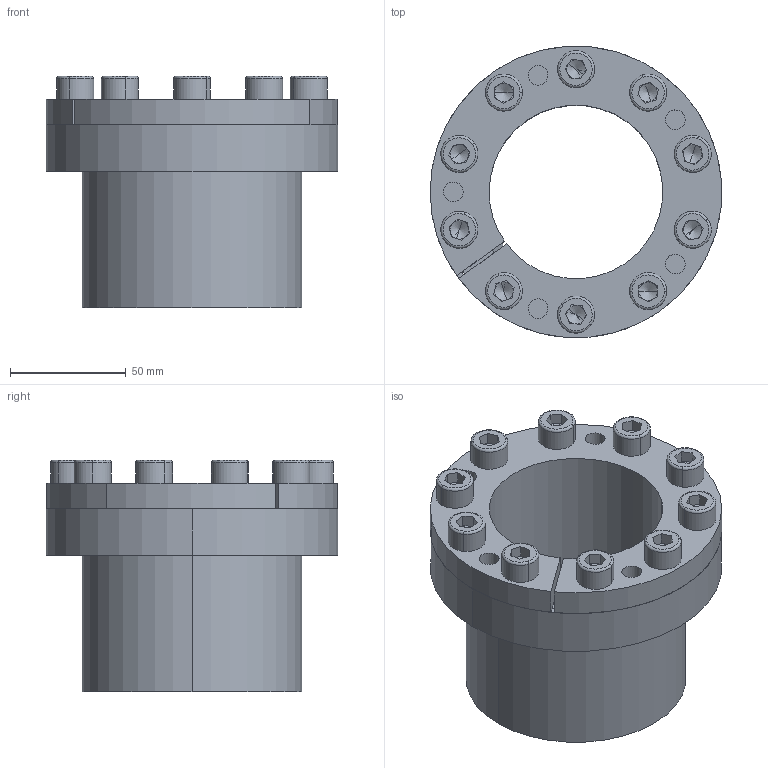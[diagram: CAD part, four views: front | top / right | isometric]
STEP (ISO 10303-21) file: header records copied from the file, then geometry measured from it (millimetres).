
FILE_DESCRIPTION (( 'STEP AP214' ), '1' );
FILE_NAME ('CONEX-B-75x95.step', '2013-04-04T12:42:23', ( 'Pc' ), ( '' ), 'SwSTEP 2.0', 'SolidWorks 2013', '' );
FILE_SCHEMA (( 'AUTOMOTIVE_DESIGN' ));
Length unit declared in the file: millimetre
Products named in the file (1): CONEX-B-75x95
Bounding box: 126 x 126 x 100 mm (x, y, z)
Volume: 379578.4 mm3; surface area: 153992.1 mm2
Topology: 13 solids, 13 shells, 360 faces, 828 edges, 494 vertices
Faces by surface type: plane 162, cylinder 106, torus 46, cone 46
Entity records: 14252 total; most frequent: DIRECTION 1916, CARTESIAN_POINT 1711, ORIENTED_EDGE 1616, EDGE_CURVE 808, AXIS2_PLACEMENT_3D 755, VERTEX_POINT 494, EDGE_LOOP 432, LINE 406
